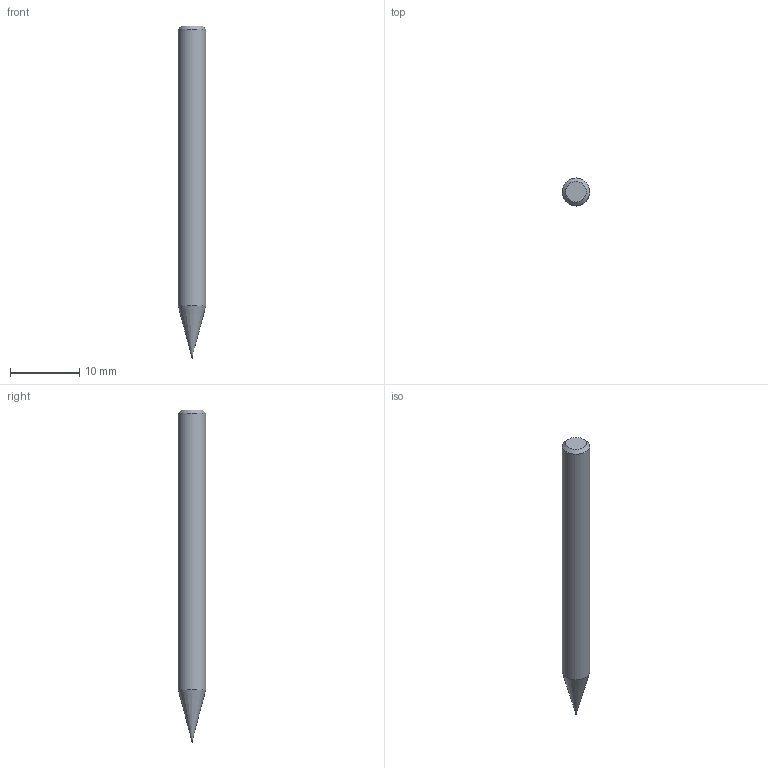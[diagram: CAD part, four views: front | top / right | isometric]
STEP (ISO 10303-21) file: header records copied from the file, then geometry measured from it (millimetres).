
FILE_DESCRIPTION((''),'2;1');
FILE_NAME('C:\Users\nsx150\AppData\Local\Temp\Mastercam 2021\ZQ9VQTH2U1\TEMP.step','2021-10-21T11:06:10',(''),(''),'STEP Write','Mastercam 2021 ... CNC Software, Inc.','');
FILE_SCHEMA(('AUTOMOTIVE_DESIGN'));
Length unit declared in the file: millimetre
Products named in the file (1): None
Bounding box: 4 x 4 x 48 mm (x, y, z)
Volume: 538.2 mm3; surface area: 565.5 mm2
Topology: 2 solids, 2 shells, 8 faces, 12 edges, 7 vertices
Faces by surface type: plane 3, cone 2, cylinder 2, sphere 1
Full cylindrical faces by diameter (mm): 0.09 x1, 4 x1
Entity records: 190 total; most frequent: DIRECTION 32, CARTESIAN_POINT 22, AXIS2_PLACEMENT_3D 16, ORIENTED_EDGE 12, EDGE_LOOP 12, STYLED_ITEM 11, ADVANCED_FACE 8, VERTEX_POINT 6
